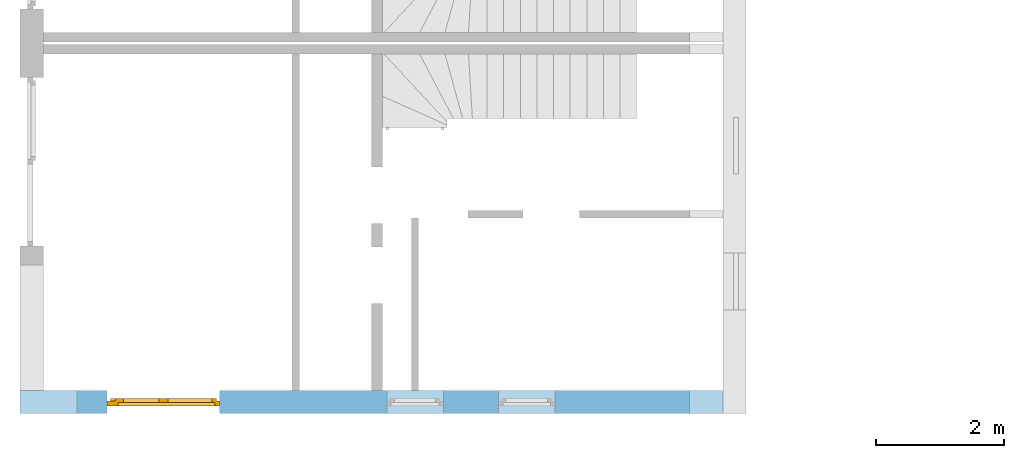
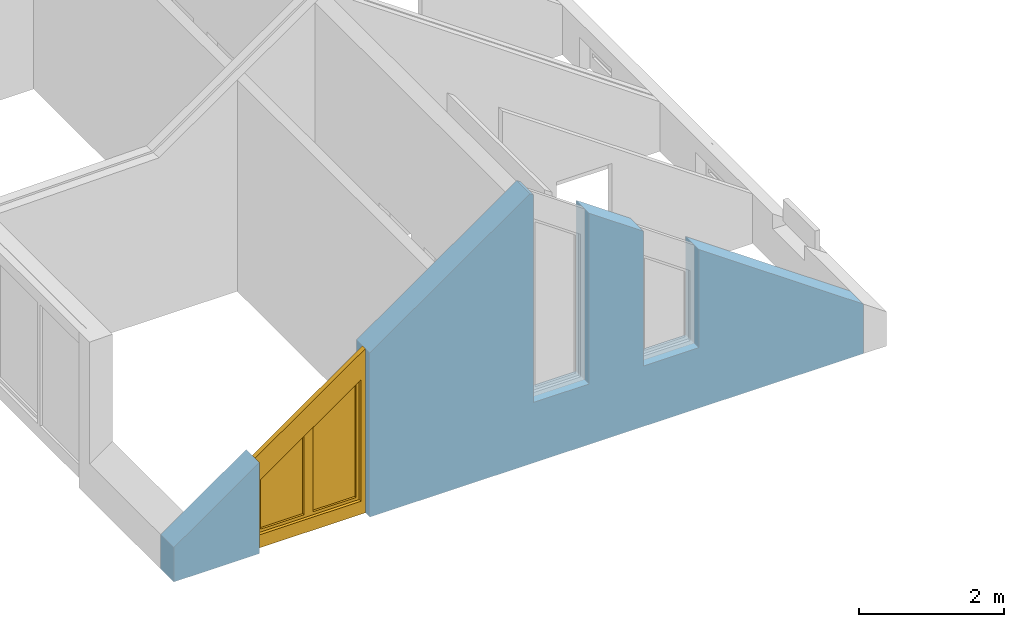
# One storey, part 4 of 23: 1 window, 3 openings, plus 1 element that does not belong to this part.
"""IFC2X3 building model written with IfcOpenShell, lengths in millimetres."""

from ifc_helpers import new_model, entity, si_unit, converted_unit, frame, frame_2d, origin, origin_with_axes, place, context, subcontext, project, spatial, polyline, rectangle, outline, extrude, clip, bounded_halfspace, faceted_brep, material, layer, layer_set, layer_usage, type_object, element, fill, save


model = new_model("IFC2X3")

# Units and contexts
model_context = context("Model", 3, precision=1e-05, world=origin())
body_context = subcontext(model_context, "Body", "Model", "MODEL_VIEW")
ifc_project = project(units=[si_unit("LENGTHUNIT", "METRE", prefix="MILLI"), converted_unit("PLANEANGLEUNIT", "DEGREE", entity("IfcPlaneAngleMeasure", 0.0174532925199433), si_unit("PLANEANGLEUNIT", "RADIAN"), dimensions=[0, 0, 0, 0, 0, 0, 0]), si_unit("AREAUNIT", "SQUARE_METRE"), si_unit("VOLUMEUNIT", "CUBIC_METRE")], contexts=[model_context])

# Building, storey
building_placement = place(None, origin())
building = spatial("IfcBuilding", under=ifc_project, at=building_placement, Name="Gebäude", CompositionType="ELEMENT")
storey_placement = place(building_placement, frame((0.0, 0.0, 5580.0), z_axis=(0.0, 0.0, 1.0), x_axis=(1.0, 0.0, 0.0)))
storey = spatial("IfcBuildingStorey", under=building, at=storey_placement, Name="DG.- Grundriss", CompositionType="ELEMENT", Elevation=5580.0)

# Wall, openings, window
ifc_material_1 = material(Name="Poroton")
ifc_layer = layer(ifc_material_1, 365.0000000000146)
ifc_layer_set = layer_set([ifc_layer])
ifc_layer_usage = layer_usage(ifc_layer_set, "AXIS2", "POSITIVE", 0.0)
wall_placement = place(storey_placement, frame((130992.7928067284, 125274.8877324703, 0.0), z_axis=(0.0, 0.0, 1.0), x_axis=(1.0, -2.749253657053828e-11, 0.0)))
wall = element("IfcWallStandardCase", 1, at=wall_placement, inside=storey, material=ifc_layer_usage, Name="<Unnamed Element>", context=body_context, shape_type="Clipping", body=[
    clip(clip(extrude(rectangle(XDim=10999.99999999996, YDim=365.0000000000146, at=frame_2d((5499.999999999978, 182.5000000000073), x_axis=(1.0, 0.0))), origin_with_axes(), (0.0, 0.0, 1.0), 4558.929335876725), bounded_halfspace(frame((5682.499999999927, -3.022829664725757e-12, 4558.929335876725), z_axis=(-0.5735764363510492, -1.576907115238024e-11, -0.8191520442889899), x_axis=(0.8191520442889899, 4.656618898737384e-16, -0.573576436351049)), True, origin(), polyline([(5682.499999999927, -3.022829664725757e-12), (10999.99999999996, 0.0), (10999.99999998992, 365.0000000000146), (5682.499999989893, 365.0000000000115), (5682.499999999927, -3.022829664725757e-12)]))), bounded_halfspace(frame((-1.003477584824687e-08, 365.0000000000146, 580.0000000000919), z_axis=(0.5735764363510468, 1.576907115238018e-11, -0.8191520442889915), x_axis=(2.749253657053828e-11, -1.0, 0.0)), True, origin(), polyline([(-1.003477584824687e-08, 365.0000000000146), (0.0, 0.0), (5682.499999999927, -3.022829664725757e-12), (5682.499999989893, 365.0000000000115), (-1.003477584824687e-08, 365.0000000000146)]))),
])
opening_1_placement = place(wall_placement, frame((1364.999999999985, -7.494236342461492e-12, 0.0), z_axis=(0.0, 1.0, 0.0), x_axis=(0.0, 0.0, 1.0)))
opening_1 = element("IfcOpeningElement", 2, at=opening_1_placement, cuts=wall, Name="Fensteröffnung", ObjectType="Opening", context=body_context, shape_type="SweptSolid", body=[
    extrude(outline(polyline([(1535.783289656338, 0.0), (0.0, 0.0), (0.0, 1760.0), (2768.148556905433, 1760.0), (1535.783289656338, 0.0)])), origin_with_axes(), (0.0, 0.0, 1.0), 365.0000000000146),
])
opening_2_placement = place(wall_placement, frame((7489.999999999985, -3.477907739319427e-11, 1020.0), z_axis=(0.0, 1.0, 0.0), x_axis=(0.0, 0.0, 1.0)))
element("IfcOpeningElement", 3, at=opening_2_placement, cuts=wall, Name="Fensteröffnung", ObjectType="Opening", context=body_context, shape_type="SweptSolid", body=[
    extrude(outline(polyline([(2273.304210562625, 0.0), (0.0, 0.0), (0.0, 885.0), (1653.620539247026, 885.0), (2273.304210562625, 0.0)])), origin_with_axes(), (0.0, 0.0, 1.0), 365.0000000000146),
])
opening_3_placement = place(wall_placement, frame((5739.999999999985, -1.658918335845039e-11, 1020.0), z_axis=(0.0, 1.0, 0.0), x_axis=(0.0, 0.0, 1.0)))
element("IfcOpeningElement", 4, at=opening_3_placement, cuts=wall, Name="Fensteröffnung", ObjectType="Opening", context=body_context, shape_type="SweptSolid", body=[
    extrude(outline(polyline([(3498.667402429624, 0.0), (0.0, 0.0), (0.0, 885.0), (2878.983731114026, 885.0), (3498.667402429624, 0.0)])), origin_with_axes(), (0.0, 0.0, 1.0), 365.0),
])
ifc_material_2 = material()
window_style = type_object("IfcWindowStyle", Name="Fenster", ConstructionType="NOTDEFINED", OperationType="USERDEFINED", ParameterTakesPrecedence=False, Sizeable=False)
window_placement = place(opening_1_placement, frame((0.0, 0.0, 0.0), z_axis=(1.0, 0.0, 0.0), x_axis=(0.0, 1.0, 0.0)))
window = element("IfcWindow", 5, at=window_placement, inside=storey, type_object=window_style, material=ifc_material_2, Name="Fenster", OverallHeight=2768.148556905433, OverallWidth=1760.0, context=body_context, shape_type="Brep", body=[
    faceted_brep([(-1.224022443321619e-08, 199.9999999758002, -2.449293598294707e-15), (1759.999999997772, 200.0000000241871, -2.449293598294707e-15), (1759.999999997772, 200.0000000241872, 2768.148556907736), (-1.224022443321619e-08, 199.9999999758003, 1535.78328965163), (1689.999999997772, 200.0000000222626, 220.0), (69.99999998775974, 199.9999999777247, 220.0), (69.99999998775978, 199.9999999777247, 1133.111219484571), (1689.999999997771, 200.0000000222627, 2267.447431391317), (1759.999999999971, 120.000000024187, 2.449293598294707e-15), (-1.004082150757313e-08, 119.9999999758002, 2.449293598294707e-15), (-1.004082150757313e-08, 119.9999999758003, 1535.78328965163), (1759.999999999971, 120.0000000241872, 2768.148556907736), (69.99999998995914, 119.9999999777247, 220.0), (1689.999999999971, 120.0000000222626, 220.0), (1689.999999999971, 120.0000000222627, 2267.447431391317), (69.99999998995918, 119.9999999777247, 1133.111219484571), (1759.999999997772, 200.0000000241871, -2.449293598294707e-15), (-1.224022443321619e-08, 199.9999999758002, -2.449293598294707e-15), (-1.004082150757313e-08, 119.9999999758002, 2.449293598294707e-15), (1759.999999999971, 120.000000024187, 2.449293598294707e-15), (1759.999999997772, 200.0000000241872, 2768.148556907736), (1759.999999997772, 200.0000000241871, -2.449293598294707e-15), (1759.999999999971, 120.000000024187, 2.449293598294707e-15), (1759.999999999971, 120.0000000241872, 2768.148556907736), (-1.224022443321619e-08, 199.9999999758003, 1535.78328965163), (1759.999999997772, 200.0000000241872, 2768.148556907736), (1759.999999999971, 120.0000000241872, 2768.148556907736), (-1.004082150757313e-08, 119.9999999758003, 1535.78328965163), (-1.224022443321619e-08, 199.9999999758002, -2.449293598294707e-15), (-1.224022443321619e-08, 199.9999999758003, 1535.78328965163), (-1.004082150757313e-08, 119.9999999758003, 1535.78328965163), (-1.004082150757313e-08, 119.9999999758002, 2.449293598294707e-15), (1689.999999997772, 200.0000000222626, 220.0), (1689.999999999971, 120.0000000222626, 220.0), (69.99999998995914, 119.9999999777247, 220.0), (69.99999998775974, 199.9999999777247, 220.0), (1689.999999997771, 200.0000000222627, 2267.447431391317), (1689.999999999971, 120.0000000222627, 2267.447431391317), (1689.999999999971, 120.0000000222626, 220.0), (1689.999999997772, 200.0000000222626, 220.0), (69.99999998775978, 199.9999999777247, 1133.111219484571), (69.99999998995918, 119.9999999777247, 1133.111219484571), (1689.999999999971, 120.0000000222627, 2267.447431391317), (1689.999999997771, 200.0000000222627, 2267.447431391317), (69.99999998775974, 199.9999999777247, 220.0), (69.99999998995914, 119.9999999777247, 220.0), (69.99999998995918, 119.9999999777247, 1133.111219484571), (69.99999998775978, 199.9999999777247, 1133.111219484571)], [[[0, 1, 2, 3], [4, 5, 6, 7]], [[8, 9, 10, 11], [12, 13, 14, 15]], [[16, 17, 18, 19]], [[20, 21, 22, 23]], [[24, 25, 26, 27]], [[28, 29, 30, 31]], [[32, 33, 34, 35]], [[36, 37, 38, 39]], [[40, 41, 42, 43]], [[44, 45, 46, 47]]], orient=[[False, False], [False, False], [False], [False], [False], [False], [False], [False], [False], [False]]),
    faceted_brep([(859.4999999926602, 239.99999999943, 220.0), (859.4999999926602, 239.9999999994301, 1685.925070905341), (69.99999998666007, 239.9999999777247, 1133.111219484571), (69.99999998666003, 239.9999999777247, 220.0), (809.4999999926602, 239.9999999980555, 1589.875964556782), (809.4999999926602, 239.9999999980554, 269.9999999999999), (119.99999998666, 239.9999999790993, 269.9999999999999), (119.9999999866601, 239.9999999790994, 1107.082866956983), (859.4999999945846, 169.9999999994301, 1685.925070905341), (859.4999999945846, 169.99999999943, 220.0), (69.9999999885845, 169.9999999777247, 220.0), (69.99999998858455, 169.9999999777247, 1133.111219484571), (809.4999999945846, 169.9999999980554, 269.9999999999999), (809.4999999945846, 169.9999999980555, 1589.875964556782), (119.9999999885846, 169.9999999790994, 1107.082866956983), (119.9999999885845, 169.9999999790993, 269.9999999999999), (859.4999999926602, 239.9999999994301, 1685.925070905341), (859.4999999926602, 239.99999999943, 220.0), (859.4999999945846, 169.99999999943, 220.0), (859.4999999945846, 169.9999999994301, 1685.925070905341), (69.99999998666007, 239.9999999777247, 1133.111219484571), (859.4999999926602, 239.9999999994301, 1685.925070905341), (859.4999999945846, 169.9999999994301, 1685.925070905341), (69.99999998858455, 169.9999999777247, 1133.111219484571), (69.99999998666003, 239.9999999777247, 220.0), (69.99999998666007, 239.9999999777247, 1133.111219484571), (69.99999998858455, 169.9999999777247, 1133.111219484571), (69.9999999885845, 169.9999999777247, 220.0), (859.4999999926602, 239.99999999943, 220.0), (69.99999998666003, 239.9999999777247, 220.0), (69.9999999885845, 169.9999999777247, 220.0), (859.4999999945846, 169.99999999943, 220.0), (809.4999999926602, 239.9999999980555, 1589.875964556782), (809.4999999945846, 169.9999999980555, 1589.875964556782), (809.4999999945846, 169.9999999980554, 269.9999999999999), (809.4999999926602, 239.9999999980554, 269.9999999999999), (119.9999999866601, 239.9999999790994, 1107.082866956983), (119.9999999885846, 169.9999999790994, 1107.082866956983), (809.4999999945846, 169.9999999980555, 1589.875964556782), (809.4999999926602, 239.9999999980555, 1589.875964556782), (119.99999998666, 239.9999999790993, 269.9999999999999), (119.9999999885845, 169.9999999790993, 269.9999999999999), (119.9999999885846, 169.9999999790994, 1107.082866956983), (119.9999999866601, 239.9999999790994, 1107.082866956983), (809.4999999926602, 239.9999999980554, 269.9999999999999), (809.4999999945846, 169.9999999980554, 269.9999999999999), (119.9999999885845, 169.9999999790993, 269.9999999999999), (119.99999998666, 239.9999999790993, 269.9999999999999)], [[[0, 1, 2, 3], [4, 5, 6, 7]], [[8, 9, 10, 11], [12, 13, 14, 15]], [[16, 17, 18, 19]], [[20, 21, 22, 23]], [[24, 25, 26, 27]], [[28, 29, 30, 31]], [[32, 33, 34, 35]], [[36, 37, 38, 39]], [[40, 41, 42, 43]], [[44, 45, 46, 47]]], orient=[[False, False], [False, False], [False], [False], [False], [False], [False], [False], [False], [False]]),
    faceted_brep([(879.4999999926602, 239.9999999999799, 200.0), (879.4999999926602, 239.9999999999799, 1724.344713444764), (49.99999998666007, 239.9999999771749, 1143.522560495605), (49.99999998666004, 239.9999999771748, 200.0), (859.4999999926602, 239.9999999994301, 1685.925070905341), (859.4999999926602, 239.99999999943, 220.0), (69.99999998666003, 239.9999999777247, 220.0), (69.99999998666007, 239.9999999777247, 1133.111219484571), (879.4999999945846, 169.9999999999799, 1724.344713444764), (879.4999999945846, 169.9999999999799, 200.0), (49.99999998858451, 169.9999999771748, 200.0), (49.99999998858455, 169.9999999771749, 1143.522560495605), (859.4999999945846, 169.99999999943, 220.0), (859.4999999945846, 169.9999999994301, 1685.925070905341), (69.99999998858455, 169.9999999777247, 1133.111219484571), (69.9999999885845, 169.9999999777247, 220.0), (879.4999999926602, 239.9999999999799, 1724.344713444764), (879.4999999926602, 239.9999999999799, 200.0), (879.4999999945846, 169.9999999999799, 200.0), (879.4999999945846, 169.9999999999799, 1724.344713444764), (49.99999998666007, 239.9999999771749, 1143.522560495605), (879.4999999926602, 239.9999999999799, 1724.344713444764), (879.4999999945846, 169.9999999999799, 1724.344713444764), (49.99999998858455, 169.9999999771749, 1143.522560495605), (49.99999998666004, 239.9999999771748, 200.0), (49.99999998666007, 239.9999999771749, 1143.522560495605), (49.99999998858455, 169.9999999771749, 1143.522560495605), (49.99999998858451, 169.9999999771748, 200.0), (879.4999999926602, 239.9999999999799, 200.0), (49.99999998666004, 239.9999999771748, 200.0), (49.99999998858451, 169.9999999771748, 200.0), (879.4999999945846, 169.9999999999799, 200.0), (859.4999999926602, 239.9999999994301, 1685.925070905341), (859.4999999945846, 169.9999999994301, 1685.925070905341), (859.4999999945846, 169.99999999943, 220.0), (859.4999999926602, 239.99999999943, 220.0), (69.99999998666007, 239.9999999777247, 1133.111219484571), (69.99999998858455, 169.9999999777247, 1133.111219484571), (859.4999999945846, 169.9999999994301, 1685.925070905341), (859.4999999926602, 239.9999999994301, 1685.925070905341), (69.99999998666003, 239.9999999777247, 220.0), (69.9999999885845, 169.9999999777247, 220.0), (69.99999998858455, 169.9999999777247, 1133.111219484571), (69.99999998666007, 239.9999999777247, 1133.111219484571), (859.4999999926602, 239.99999999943, 220.0), (859.4999999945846, 169.99999999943, 220.0), (69.9999999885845, 169.9999999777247, 220.0), (69.99999998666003, 239.9999999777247, 220.0)], [[[0, 1, 2, 3], [4, 5, 6, 7]], [[8, 9, 10, 11], [12, 13, 14, 15]], [[16, 17, 18, 19]], [[20, 21, 22, 23]], [[24, 25, 26, 27]], [[28, 29, 30, 31]], [[32, 33, 34, 35]], [[36, 37, 38, 39]], [[40, 41, 42, 43]], [[44, 45, 46, 47]]], orient=[[False, False], [False, False], [False], [False], [False], [False], [False], [False], [False], [False]]),
    faceted_brep([(1689.999999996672, 240.0000000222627, 2267.447431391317), (860.49999999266, 239.9999999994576, 1686.62527844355), (860.49999999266, 239.9999999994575, 220.0), (1689.999999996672, 240.0000000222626, 220.0), (950.49999999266, 240.0000000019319, 1688.605227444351), (1639.999999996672, 240.0000000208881, 2171.398325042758), (1639.999999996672, 240.0000000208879, 270.0), (950.49999999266, 240.0000000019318, 270.0), (860.4999999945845, 169.9999999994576, 1686.62527844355), (1689.999999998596, 170.0000000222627, 2267.447431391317), (1689.999999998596, 170.0000000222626, 220.0), (860.4999999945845, 169.9999999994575, 220.0), (1639.999999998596, 170.0000000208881, 2171.398325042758), (950.4999999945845, 170.0000000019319, 1688.605227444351), (950.4999999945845, 170.0000000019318, 270.0), (1639.999999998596, 170.0000000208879, 270.0), (860.49999999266, 239.9999999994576, 1686.62527844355), (1689.999999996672, 240.0000000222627, 2267.447431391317), (1689.999999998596, 170.0000000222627, 2267.447431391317), (860.4999999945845, 169.9999999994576, 1686.62527844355), (860.49999999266, 239.9999999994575, 220.0), (860.49999999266, 239.9999999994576, 1686.62527844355), (860.4999999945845, 169.9999999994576, 1686.62527844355), (860.4999999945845, 169.9999999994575, 220.0), (1689.999999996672, 240.0000000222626, 220.0), (860.49999999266, 239.9999999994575, 220.0), (860.4999999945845, 169.9999999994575, 220.0), (1689.999999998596, 170.0000000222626, 220.0), (1689.999999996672, 240.0000000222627, 2267.447431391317), (1689.999999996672, 240.0000000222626, 220.0), (1689.999999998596, 170.0000000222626, 220.0), (1689.999999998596, 170.0000000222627, 2267.447431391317), (950.49999999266, 240.0000000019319, 1688.605227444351), (950.4999999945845, 170.0000000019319, 1688.605227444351), (1639.999999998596, 170.0000000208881, 2171.398325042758), (1639.999999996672, 240.0000000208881, 2171.398325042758), (950.49999999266, 240.0000000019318, 270.0), (950.4999999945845, 170.0000000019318, 270.0), (950.4999999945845, 170.0000000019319, 1688.605227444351), (950.49999999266, 240.0000000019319, 1688.605227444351), (1639.999999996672, 240.0000000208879, 270.0), (1639.999999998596, 170.0000000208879, 270.0), (950.4999999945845, 170.0000000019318, 270.0), (950.49999999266, 240.0000000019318, 270.0), (1639.999999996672, 240.0000000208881, 2171.398325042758), (1639.999999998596, 170.0000000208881, 2171.398325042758), (1639.999999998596, 170.0000000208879, 270.0), (1639.999999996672, 240.0000000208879, 270.0)], [[[0, 1, 2, 3], [4, 5, 6, 7]], [[8, 9, 10, 11], [12, 13, 14, 15]], [[16, 17, 18, 19]], [[20, 21, 22, 23]], [[24, 25, 26, 27]], [[28, 29, 30, 31]], [[32, 33, 34, 35]], [[36, 37, 38, 39]], [[40, 41, 42, 43]], [[44, 45, 46, 47]]], orient=[[False, False], [False, False], [False], [False], [False], [False], [False], [False], [False], [False]]),
    faceted_brep([(1709.999999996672, 240.0000000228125, 2305.86707393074), (880.49999999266, 240.0000000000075, 1725.044920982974), (880.4999999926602, 240.0000000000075, 1700.629429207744), (1689.999999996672, 240.0000000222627, 2267.447431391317), (1689.999999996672, 240.0000000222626, 220.0), (880.49999999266, 240.0000000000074, 220.0), (880.49999999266, 240.0000000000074, 200.0), (1709.999999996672, 240.0000000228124, 200.0), (880.4999999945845, 170.0000000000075, 1725.044920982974), (1709.999999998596, 170.0000000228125, 2305.86707393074), (1709.999999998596, 170.0000000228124, 200.0), (880.4999999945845, 170.0000000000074, 200.0), (880.4999999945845, 170.0000000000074, 220.0), (1689.999999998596, 170.0000000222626, 220.0), (1689.999999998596, 170.0000000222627, 2267.447431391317), (880.4999999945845, 170.0000000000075, 1700.629429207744), (880.49999999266, 240.0000000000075, 1725.044920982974), (1709.999999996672, 240.0000000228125, 2305.86707393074), (1709.999999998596, 170.0000000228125, 2305.86707393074), (880.4999999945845, 170.0000000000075, 1725.044920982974), (880.49999999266, 240.0000000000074, 200.0), (880.49999999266, 240.0000000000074, 220.0), (880.4999999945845, 170.0000000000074, 220.0), (880.4999999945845, 170.0000000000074, 200.0), (880.4999999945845, 170.0000000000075, 1700.629429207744), (880.4999999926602, 240.0000000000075, 1700.629429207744), (880.49999999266, 240.0000000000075, 1725.044920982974), (880.4999999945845, 170.0000000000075, 1725.044920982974), (1709.999999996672, 240.0000000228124, 200.0), (880.49999999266, 240.0000000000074, 200.0), (880.4999999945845, 170.0000000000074, 200.0), (1709.999999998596, 170.0000000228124, 200.0), (1709.999999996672, 240.0000000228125, 2305.86707393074), (1709.999999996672, 240.0000000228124, 200.0), (1709.999999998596, 170.0000000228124, 200.0), (1709.999999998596, 170.0000000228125, 2305.86707393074), (880.4999999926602, 240.0000000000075, 1700.629429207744), (880.4999999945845, 170.0000000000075, 1700.629429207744), (1689.999999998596, 170.0000000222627, 2267.447431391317), (1689.999999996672, 240.0000000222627, 2267.447431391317), (1689.999999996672, 240.0000000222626, 220.0), (1689.999999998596, 170.0000000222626, 220.0), (880.4999999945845, 170.0000000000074, 220.0), (880.49999999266, 240.0000000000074, 220.0), (1689.999999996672, 240.0000000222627, 2267.447431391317), (1689.999999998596, 170.0000000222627, 2267.447431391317), (1689.999999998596, 170.0000000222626, 220.0), (1689.999999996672, 240.0000000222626, 220.0)], [[[0, 1, 2, 3, 4, 5, 6, 7]], [[8, 9, 10, 11, 12, 13, 14, 15]], [[16, 17, 18, 19]], [[20, 21, 22, 23]], [[24, 25, 26, 27]], [[28, 29, 30, 31]], [[32, 33, 34, 35]], [[36, 37, 38, 39]], [[40, 41, 42, 43]], [[44, 45, 46, 47]]], orient=[[False], [False], [False], [False], [False], [False], [False], [False], [False], [False]]),
    faceted_brep([(809.4999999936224, 204.9999999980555, 1589.875964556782), (119.9999999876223, 204.9999999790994, 1107.082866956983), (119.9999999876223, 204.9999999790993, 269.9999999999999), (809.4999999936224, 204.9999999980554, 269.9999999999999), (809.4999999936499, 203.9999999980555, 1589.875964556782), (809.4999999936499, 203.9999999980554, 269.9999999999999), (119.9999999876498, 203.9999999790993, 269.9999999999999), (119.9999999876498, 203.9999999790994, 1107.082866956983), (809.4999999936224, 204.9999999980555, 1589.875964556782), (809.4999999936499, 203.9999999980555, 1589.875964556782), (119.9999999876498, 203.9999999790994, 1107.082866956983), (119.9999999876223, 204.9999999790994, 1107.082866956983), (119.9999999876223, 204.9999999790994, 1107.082866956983), (119.9999999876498, 203.9999999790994, 1107.082866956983), (119.9999999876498, 203.9999999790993, 269.9999999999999), (119.9999999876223, 204.9999999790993, 269.9999999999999), (119.9999999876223, 204.9999999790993, 269.9999999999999), (119.9999999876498, 203.9999999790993, 269.9999999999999), (809.4999999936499, 203.9999999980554, 269.9999999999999), (809.4999999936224, 204.9999999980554, 269.9999999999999), (809.4999999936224, 204.9999999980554, 269.9999999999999), (809.4999999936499, 203.9999999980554, 269.9999999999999), (809.4999999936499, 203.9999999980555, 1589.875964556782), (809.4999999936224, 204.9999999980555, 1589.875964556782)], [[[0, 1, 2, 3]], [[4, 5, 6, 7]], [[8, 9, 10, 11]], [[12, 13, 14, 15]], [[16, 17, 18, 19]], [[20, 21, 22, 23]]], orient=[[False], [False], [False], [False], [False], [False]]),
    faceted_brep([(950.4999999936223, 205.0000000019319, 1688.605227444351), (950.4999999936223, 205.0000000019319, 270.0), (1639.999999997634, 205.000000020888, 270.0), (1639.999999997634, 205.0000000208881, 2171.398325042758), (950.4999999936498, 204.0000000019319, 1688.605227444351), (1639.999999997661, 204.0000000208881, 2171.398325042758), (1639.999999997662, 204.000000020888, 270.0), (950.4999999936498, 204.0000000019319, 270.0), (950.4999999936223, 205.0000000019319, 1688.605227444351), (950.4999999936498, 204.0000000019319, 1688.605227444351), (950.4999999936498, 204.0000000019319, 270.0), (950.4999999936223, 205.0000000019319, 270.0), (950.4999999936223, 205.0000000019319, 270.0), (950.4999999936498, 204.0000000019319, 270.0), (1639.999999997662, 204.000000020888, 270.0), (1639.999999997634, 205.000000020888, 270.0), (1639.999999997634, 205.000000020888, 270.0), (1639.999999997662, 204.000000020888, 270.0), (1639.999999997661, 204.0000000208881, 2171.398325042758), (1639.999999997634, 205.0000000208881, 2171.398325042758), (1639.999999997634, 205.0000000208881, 2171.398325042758), (1639.999999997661, 204.0000000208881, 2171.398325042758), (950.4999999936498, 204.0000000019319, 1688.605227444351), (950.4999999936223, 205.0000000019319, 1688.605227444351)], [[[0, 1, 2, 3]], [[4, 5, 6, 7]], [[8, 9, 10, 11]], [[12, 13, 14, 15]], [[16, 17, 18, 19]], [[20, 21, 22, 23]]], orient=[[False], [False], [False], [False], [False], [False]]),
])
fill(opening_1, window)

save(model, "model.ifc")
